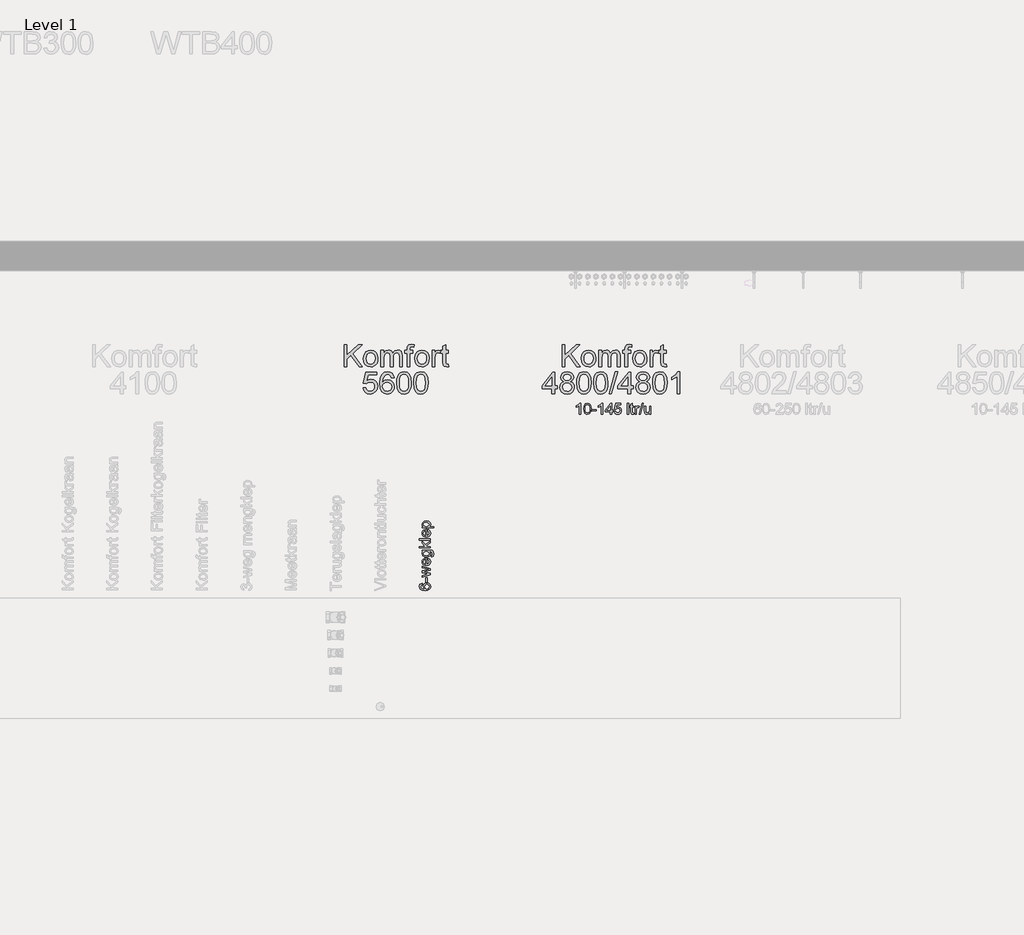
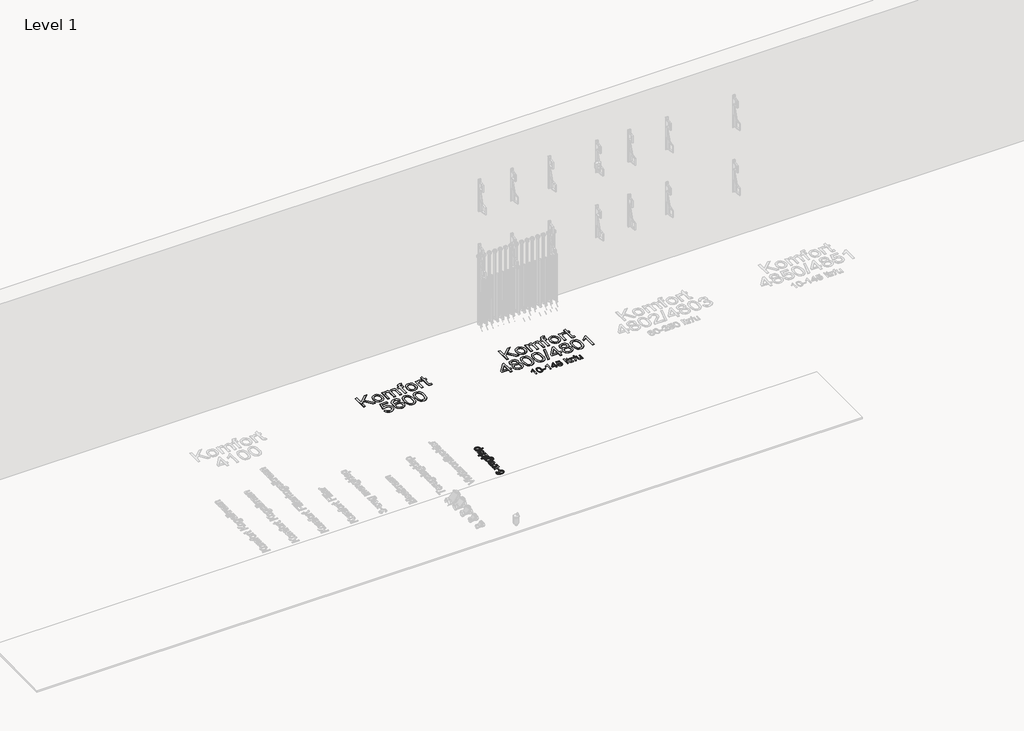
# One storey, part 22 of 34: 4 proxies.
"""IFC4 building model written with IfcOpenShell, lengths in millimetres."""

from ifc_helpers import new_model, si_unit, origin, origin_with_axes, place, context, project, spatial, polyline, outline, extrude, element, save

model = new_model("IFC4")

# Units and contexts
model_context = context("Model", 3, world=origin())
ifc_project = project(units=[si_unit("LENGTHUNIT", "METRE", prefix="MILLI")], contexts=[model_context])

# Site, building, storey
site = spatial("IfcSite", under=ifc_project)
building = spatial("IfcBuilding", under=site)
storey = spatial("IfcBuildingStorey", under=building, Name="Level 1", Elevation=0.0)

# Proxies
placement = place(None, origin())
element("IfcBuildingElementProxy", 1, Name="DN", ObjectType="DN", at=placement, inside=storey, context=model_context, shape_type="SweptSolid", body=[
    extrude(outline(polyline([(-10502.5642174, 6628.0579707), (-10511.7949866, 6628.0579707), (-10511.7949866, 6685.6060476), (-10520.538977, 6679.3770812), (-10530.2565251, 6674.7166245), (-10530.2565251, 6683.442586), (-10516.7258761, 6692.0784034), (-10508.5137366, 6701.9041245), (-10502.5642174, 6701.9041245), (-10502.5642174, 6628.0579707)])), origin_with_axes(), (0.0, 0.0, 1.0), 5.0),
    extrude(outline(polyline([(-10480.6411405, 6664.3860957), (-10477.9277991, 6685.6330909), (-10469.8689049, 6697.8836918), (-10456.4103712, 6701.9041245), (-10445.6291212, 6699.5243168), (-10438.1832078, 6692.6643409), (-10433.8562847, 6681.7388601), (-10432.179602, 6664.3860957), (-10434.8659001, 6643.2292447), (-10442.8977511, 6630.9516005), (-10456.4103712, 6626.9041245), (-10466.0017174, 6628.661937), (-10473.2853712, 6633.9353745), (-10478.8021982, 6646.4248577), (-10480.6411405, 6664.3860957)]), holes=[polyline([(-10471.4103712, 6664.4041245), (-10470.3286405, 6649.8841425), (-10467.0834482, 6641.4804466), (-10456.4103712, 6636.1348937), (-10445.7372943, 6641.4984755), (-10442.492102, 6649.9066786), (-10441.4103712, 6664.4041245), (-10445.5930636, 6687.0663841), (-10456.5185443, 6692.6733553), (-10466.9392174, 6687.7334514), (-10470.2925828, 6678.7370572), (-10471.4103712, 6664.4041245)])]), origin_with_axes(), (0.0, 0.0, 1.0), 5.0),
    extrude(outline(polyline([(-10426.4103712, 6649.9810476), (-10426.4103712, 6659.2118168), (-10397.5642174, 6659.2118168), (-10397.5642174, 6649.9810476), (-10426.4103712, 6649.9810476)])), origin_with_axes(), (0.0, 0.0, 1.0), 5.0),
    extrude(outline(polyline([(-10354.8719097, 6628.0579707), (-10364.1026789, 6628.0579707), (-10364.1026789, 6685.6060476), (-10372.8466693, 6679.3770812), (-10382.5642174, 6674.7166245), (-10382.5642174, 6683.442586), (-10369.0335684, 6692.0784034), (-10360.8214289, 6701.9041245), (-10354.8719097, 6701.9041245), (-10354.8719097, 6628.0579707)])), origin_with_axes(), (0.0, 0.0, 1.0), 5.0),
    extrude(outline(polyline([(-10302.9488328, 6628.0579707), (-10302.9488328, 6645.365663), (-10336.4103712, 6645.365663), (-10336.4103712, 6654.5964322), (-10300.6411405, 6700.7502784), (-10293.7180636, 6700.7502784), (-10293.7180636, 6654.5964322), (-10284.4872943, 6654.5964322), (-10284.4872943, 6645.365663), (-10293.7180636, 6645.365663), (-10293.7180636, 6628.0579707), (-10302.9488328, 6628.0579707)]), holes=[polyline([(-10302.9488328, 6654.5964322), (-10302.9488328, 6683.1180668), (-10325.0521982, 6654.5964322), (-10302.9488328, 6654.5964322)])]), origin_with_axes(), (0.0, 0.0, 1.0), 5.0),
    extrude(outline(polyline([(-10276.4103712, 6647.6733553), (-10267.179602, 6648.8272014), (-10262.5281597, 6639.3169851), (-10252.882727, 6636.1348937), (-10241.3082078, 6640.5609755), (-10237.179602, 6652.3067687), (-10241.0467895, 6663.2683072), (-10252.7384962, 6667.2887399), (-10260.8424626, 6665.6841726), (-10266.0257559, 6661.5195091), (-10275.2565251, 6662.6733553), (-10267.179602, 6700.7502784), (-10231.4103712, 6700.7502784), (-10231.4103712, 6691.5195091), (-10259.7156597, 6691.5195091), (-10263.663977, 6671.1829707), (-10250.1603712, 6676.5195091), (-10241.535822, 6674.8653625), (-10234.3761164, 6669.9029226), (-10229.5556537, 6662.3398216), (-10227.9488328, 6652.8836918), (-10233.7360924, 6635.756288), (-10242.0473905, 6629.1171654), (-10252.9187847, 6626.9041245), (-10261.9850407, 6628.3261498), (-10269.2078472, 6632.5922255), (-10274.1590191, 6639.2065584), (-10276.4103712, 6647.6733553)])), origin_with_axes(), (0.0, 0.0, 1.0), 5.0),
    extrude(outline(polyline([(-10188.7180636, 6628.0579707), (-10188.7180636, 6701.9041245), (-10179.4872943, 6701.9041245), (-10179.4872943, 6628.0579707), (-10188.7180636, 6628.0579707)])), origin_with_axes(), (0.0, 0.0, 1.0), 5.0),
    extrude(outline(polyline([(-10146.0257559, 6635.756288), (-10144.8719097, 6627.787538), (-10151.7769578, 6626.9041245), (-10159.5113328, 6628.4365764), (-10163.3695059, 6632.4570091), (-10164.4872943, 6642.9317687), (-10164.4872943, 6673.0579707), (-10171.4103712, 6673.0579707), (-10171.4103712, 6682.2887399), (-10164.4872943, 6682.2887399), (-10164.4872943, 6695.4678264), (-10155.2565251, 6700.8945091), (-10155.2565251, 6682.2887399), (-10146.0257559, 6682.2887399), (-10146.0257559, 6673.0579707), (-10155.2565251, 6673.0579707), (-10155.2565251, 6643.2022014), (-10154.7697462, 6638.442586), (-10153.1922222, 6636.7568889), (-10150.0461886, 6636.1348937), (-10146.0257559, 6635.756288)])), origin_with_axes(), (0.0, 0.0, 1.0), 5.0),
    extrude(outline(polyline([(-10136.7949866, 6628.0579707), (-10136.7949866, 6682.2887399), (-10128.7180636, 6682.2887399), (-10128.7180636, 6674.2659034), (-10122.9848905, 6681.6577303), (-10117.2156597, 6683.442586), (-10107.9488328, 6680.5940284), (-10111.0317655, 6672.318788), (-10117.5221501, 6674.2118168), (-10122.7415011, 6672.3909034), (-10126.0678232, 6667.3428264), (-10127.5642174, 6656.5615764), (-10127.5642174, 6628.0579707), (-10136.7949866, 6628.0579707)])), origin_with_axes(), (0.0, 0.0, 1.0), 5.0),
    extrude(outline(polyline([(-10109.1026789, 6628.0579707), (-10088.3334482, 6701.9041245), (-10080.0041212, 6701.9041245), (-10100.773352, 6628.0579707), (-10109.1026789, 6628.0579707)])), origin_with_axes(), (0.0, 0.0, 1.0), 5.0),
    extrude(outline(polyline([(-10038.7180636, 6628.0579707), (-10038.7180636, 6637.3788841), (-10045.9476309, 6629.5228144), (-10055.3767174, 6626.9041245), (-10064.0576068, 6628.7430668), (-10070.0431837, 6633.3584514), (-10072.7925828, 6640.1553264), (-10073.3334482, 6648.7370572), (-10073.3334482, 6682.2887399), (-10064.1026789, 6682.2887399), (-10064.1026789, 6653.0820091), (-10063.5437847, 6643.6709514), (-10059.8929434, 6638.1451101), (-10053.0149386, 6636.1348937), (-10045.3076068, 6638.1901822), (-10040.2144578, 6643.7881389), (-10038.7180636, 6654.0735957), (-10038.7180636, 6682.2887399), (-10029.4872943, 6682.2887399), (-10029.4872943, 6628.0579707), (-10038.7180636, 6628.0579707)])), origin_with_axes(), (0.0, 0.0, 1.0), 5.0),
])
element("IfcBuildingElementProxy", 2, Name="DN", ObjectType="DN", at=placement, inside=storey, context=model_context, shape_type="SweptSolid", body=[
    extrude(outline(polyline([(-11566.7545134, 5492.7170532), (-11565.5772911, 5483.2992741), (-11573.4315717, 5479.7308188), (-11577.3495149, 5470.2946456), (-11575.0686465, 5461.7965715), (-11566.5061931, 5455.3678336), (-11549.7215771, 5452.6914921), (-11557.2355668, 5460.9964282), (-11559.6911791, 5471.287927), (-11558.0127175, 5479.9883362), (-11552.9773327, 5487.2907938), (-11545.2840005, 5492.2434051), (-11535.6316966, 5493.8942756), (-11522.6362652, 5490.7856727), (-11513.4392153, 5482.2324163), (-11510.247839, 5469.8899754), (-11512.3631605, 5459.2053027), (-11518.7091249, 5450.6957323), (-11529.9111316, 5445.1292179), (-11546.5945801, 5443.273713), (-11565.3519633, 5445.3338522), (-11578.1772494, 5451.5142697), (-11584.6197828, 5459.952563), (-11586.767294, 5470.8832568), (-11581.4513991, 5485.7640835), (-11566.7545134, 5492.7170532)]), holes=[polyline([(-11535.7788494, 5452.6914921), (-11527.6210662, 5454.8711929), (-11521.6981661, 5460.6653344), (-11519.6656181, 5469.1542114), (-11523.8778669, 5480.2550506), (-11535.318997, 5484.4764965), (-11546.2726834, 5480.3102329), (-11550.2734001, 5468.7679353), (-11546.2726834, 5457.3727905), (-11535.7788494, 5452.6914921)])]), origin_with_axes(), (0.0, 0.0, 1.0), 5.0),
    extrude(outline(polyline([(-11533.7922867, 5499.7803875), (-11543.2100657, 5499.7803875), (-11543.2100657, 5529.2109471), (-11533.7922867, 5529.2109471), (-11533.7922867, 5499.7803875)])), origin_with_axes(), (0.0, 0.0, 1.0), 5.0),
    extrude(outline(polyline([(-11511.4250614, 5548.9846044), (-11566.7545134, 5532.1540031), (-11566.7545134, 5541.9396641), (-11534.4728684, 5551.4862019), (-11522.9397678, 5554.3372874), (-11534.0498041, 5556.6733381), (-11566.7545134, 5564.2701013), (-11566.7545134, 5575.4905021), (-11534.1417746, 5583.0504771), (-11524.080202, 5585.1290104), (-11534.6935976, 5588.1088545), (-11566.7545134, 5597.6737864), (-11566.7545134, 5607.4962357), (-11511.4250614, 5590.5368757), (-11511.4250614, 5579.150928), (-11543.8722533, 5571.9220468), (-11553.9890082, 5569.8251194), (-11511.4250614, 5560.4993108), (-11511.4250614, 5548.9846044)])), origin_with_axes(), (0.0, 0.0, 1.0), 5.0),
    extrude(outline(polyline([(-11527.9061748, 5652.7089329), (-11526.7289524, 5661.942771), (-11514.5704524, 5653.3067411), (-11510.247839, 5637.2211009), (-11512.1125408, 5626.1708455), (-11517.7066464, 5617.6681729), (-11526.6668723, 5612.2465119), (-11538.6299349, 5610.4392916), (-11550.9953685, 5612.264906), (-11560.2430021, 5617.7417493), (-11566.0095524, 5626.1294587), (-11567.9317358, 5636.687672), (-11566.0141509, 5646.9170907), (-11560.2613962, 5655.0909688), (-11551.0321567, 5660.4505496), (-11538.6851172, 5662.2370766), (-11536.1467314, 5662.1818943), (-11536.1467314, 5619.8570707), (-11523.9146551, 5625.2741331), (-11519.6656181, 5637.4050419), (-11521.6337867, 5646.63888), (-11527.9061748, 5652.7089329)]), holes=[polyline([(-11545.5645105, 5619.8570707), (-11545.5645105, 5652.8192975), (-11554.0993728, 5649.048507), (-11558.5139567, 5636.6508838), (-11554.9914866, 5625.0534039), (-11545.5645105, 5619.8570707)])]), origin_with_axes(), (0.0, 0.0, 1.0), 5.0),
    extrude(outline(polyline([(-11506.7161718, 5669.3004109), (-11505.5389494, 5678.71819), (-11500.5725425, 5681.7716105), (-11498.4756151, 5690.9134781), (-11500.848454, 5700.5519864), (-11507.5071181, 5705.1505113), (-11518.4883957, 5705.7943048), (-11513.1908949, 5699.1632318), (-11511.4250614, 5691.079025), (-11513.480602, 5681.3692396), (-11519.647224, 5674.1288621), (-11528.687924, 5669.6246069), (-11539.3656989, 5668.1231885), (-11553.9614171, 5670.8179241), (-11564.2897041, 5678.6170224), (-11567.9317358, 5690.6191725), (-11565.8715967, 5699.0206776), (-11559.6911791, 5705.7943048), (-11566.7545134, 5705.7943048), (-11566.7545134, 5715.2120839), (-11518.9850364, 5715.2120839), (-11500.6921042, 5712.6369099), (-11492.184833, 5704.4791267), (-11489.0578361, 5690.7295371), (-11493.463223, 5675.0669612), (-11498.9791536, 5670.6408809), (-11506.7161718, 5669.3004109)]), holes=[polyline([(-11540.0094924, 5677.5409676), (-11525.4321683, 5681.5600784), (-11520.8428404, 5691.6492421), (-11525.4045772, 5701.7200117), (-11539.7335809, 5705.7943048), (-11553.7774761, 5701.6004501), (-11558.5139567, 5691.5020893), (-11553.8510525, 5681.6152607), (-11540.0094924, 5677.5409676)])]), origin_with_axes(), (0.0, 0.0, 1.0), 5.0),
    extrude(outline(polyline([(-11511.4250614, 5729.3387525), (-11586.767294, 5729.3387525), (-11586.767294, 5738.7565316), (-11546.2818804, 5738.7565316), (-11566.7545134, 5759.8729581), (-11566.7545134, 5772.8959807), (-11546.024363, 5751.5220368), (-11511.4250614, 5774.0732031), (-11511.4250614, 5763.0735314), (-11539.4760635, 5744.7714022), (-11533.6451339, 5738.7565316), (-11511.4250614, 5738.7565316), (-11511.4250614, 5729.3387525)])), origin_with_axes(), (0.0, 0.0, 1.0), 5.0),
    extrude(outline(polyline([(-11511.4250614, 5782.3137598), (-11586.767294, 5782.3137598), (-11586.767294, 5791.7315389), (-11511.4250614, 5791.7315389), (-11511.4250614, 5782.3137598)])), origin_with_axes(), (0.0, 0.0, 1.0), 5.0),
    extrude(outline(polyline([(-11527.9061748, 5844.5961816), (-11526.7289524, 5853.8300197), (-11514.5704524, 5845.1939898), (-11510.247839, 5829.1083496), (-11512.1125408, 5818.0580942), (-11517.7066464, 5809.5554215), (-11526.6668723, 5804.1337606), (-11538.6299349, 5802.3265403), (-11550.9953685, 5804.1521547), (-11560.2430021, 5809.6289979), (-11566.0095524, 5818.0167074), (-11567.9317358, 5828.5749207), (-11566.0141509, 5838.8043394), (-11560.2613962, 5846.9782175), (-11551.0321567, 5852.3377983), (-11538.6851172, 5854.1243253), (-11536.1467314, 5854.069143), (-11536.1467314, 5811.7443194), (-11523.9146551, 5817.1613818), (-11519.6656181, 5829.2922906), (-11521.6337867, 5838.5261287), (-11527.9061748, 5844.5961816)]), holes=[polyline([(-11545.5645105, 5811.7443194), (-11545.5645105, 5844.7065462), (-11554.0993728, 5840.9357557), (-11558.5139567, 5828.5381325), (-11554.9914866, 5816.9406526), (-11545.5645105, 5811.7443194)])]), origin_with_axes(), (0.0, 0.0, 1.0), 5.0),
    extrude(outline(polyline([(-11490.2350584, 5863.5421043), (-11566.7545134, 5863.5421043), (-11566.7545134, 5872.9598834), (-11557.5206754, 5872.9598834), (-11565.3289707, 5879.4713947), (-11567.9317358, 5888.2637744), (-11564.2897041, 5900.2015451), (-11554.0257964, 5908.0006434), (-11539.5128517, 5910.6309997), (-11524.2549459, 5907.6603526), (-11513.8622796, 5899.0335198), (-11510.247839, 5887.1233402), (-11512.6666631, 5878.9287688), (-11518.7827013, 5872.9598834), (-11490.2350584, 5872.9598834), (-11490.2350584, 5863.5421043)]), holes=[polyline([(-11538.648329, 5872.9598834), (-11524.3009312, 5877.0341765), (-11519.6656181, 5886.9210051), (-11524.4664781, 5897.0101688), (-11539.3473048, 5901.2132206), (-11553.7314908, 5897.1113364), (-11558.5139567, 5887.3072812), (-11553.4279882, 5877.310088), (-11538.648329, 5872.9598834)])]), origin_with_axes(), (0.0, 0.0, 1.0), 5.0),
])
element("IfcBuildingElementProxy", 3, Name="type", ObjectType="type", at=placement, inside=storey, context=model_context, shape_type="SweptSolid", body=[
    extrude(outline(polyline([(-10626.6026789, 6948.0579707), (-10626.6026789, 7095.7502784), (-10608.1411405, 7095.7502784), (-10608.1411405, 7023.4546053), (-10532.4199866, 7095.7502784), (-10506.6026789, 7095.7502784), (-10570.1723905, 7035.0291245), (-10504.2949866, 6948.0579707), (-10526.867102, 6948.0579707), (-10583.2613328, 7022.553163), (-10608.1411405, 6998.8272014), (-10608.1411405, 6948.0579707), (-10626.6026789, 6948.0579707)])), origin_with_axes(), (0.0, 0.0, 1.0), 5.0),
    extrude(outline(polyline([(-10497.3719097, 7002.2887399), (-10493.3785203, 7028.4395812), (-10481.398352, 7046.8199899), (-10466.5966693, 7055.8253985), (-10448.8743136, 7058.8272014), (-10429.4797823, 7055.1718529), (-10413.9884962, 7044.2058072), (-10403.8337487, 7026.794449), (-10400.4488328, 7003.803163), (-10401.945227, 6985.1523216), (-10406.4344097, 6970.9546053), (-10413.7856717, 6960.3220933), (-10423.8683039, 6952.3668649), (-10435.843965, 6947.404425), (-10448.8743136, 6945.7502784), (-10468.5032198, 6949.3921053), (-10483.976477, 6960.317586), (-10494.0230515, 6978.0940284), (-10497.3719097, 7002.2887399)]), holes=[polyline([(-10478.9103712, 7002.3247976), (-10476.773953, 6985.6165644), (-10470.3646982, 6973.7130187), (-10460.7192655, 6966.5871173), (-10448.8743136, 6964.2118168), (-10437.0834482, 6966.6006389), (-10427.4560443, 6973.7671053), (-10421.0467895, 6985.8284034), (-10418.9103712, 7002.9017207), (-10421.0603112, 7019.123175), (-10427.5101309, 7030.864461), (-10437.1510563, 7037.9903625), (-10448.8743136, 7040.365663), (-10460.7192655, 7037.9993769), (-10470.3646982, 7030.9005187), (-10476.773953, 7019.0240163), (-10478.9103712, 7002.3247976)])]), origin_with_axes(), (0.0, 0.0, 1.0), 5.0),
    extrude(outline(polyline([(-10379.679602, 6948.0579707), (-10379.679602, 7056.5195091), (-10361.2180636, 7056.5195091), (-10361.2180636, 7038.6709514), (-10348.5257559, 7053.2923457), (-10330.460852, 7058.8272014), (-10320.1934241, 7057.4164442), (-10311.9632559, 7053.1841726), (-10301.7949866, 7037.3728745), (-10287.3899386, 7053.4636197), (-10269.1988328, 7058.8272014), (-10255.3211285, 7056.5961317), (-10245.0582078, 7049.9029226), (-10238.7165612, 7038.5672856), (-10236.6026789, 7022.4089322), (-10236.6026789, 6948.0579707), (-10255.0642174, 6948.0579707), (-10255.0642174, 7014.4762399), (-10256.7769578, 7029.8909034), (-10262.9788809, 7037.4810476), (-10273.5257559, 7040.365663), (-10283.5272583, 7038.5177062), (-10291.6808039, 7032.973836), (-10297.1029794, 7023.3554466), (-10298.9103712, 7009.2839322), (-10298.9103712, 6948.0579707), (-10317.3719097, 6948.0579707), (-10317.3719097, 7016.5315284), (-10321.6447462, 7034.4161437), (-10327.2832679, 7038.8782832), (-10335.6531597, 7040.365663), (-10349.3190251, 7036.3993168), (-10358.4055636, 7024.7887399), (-10361.2180636, 7002.7574899), (-10361.2180636, 6948.0579707), (-10379.679602, 6948.0579707)])), origin_with_axes(), (0.0, 0.0, 1.0), 5.0),
    extrude(outline(polyline([(-10204.2949866, 6948.0579707), (-10204.2949866, 7038.0579707), (-10220.4488328, 7038.0579707), (-10220.4488328, 7056.5195091), (-10204.2949866, 7056.5195091), (-10204.2949866, 7067.4449899), (-10202.3478712, 7082.8416245), (-10192.9007559, 7093.8392207), (-10174.2949866, 7098.0579707), (-10157.4560443, 7096.0387399), (-10160.1603712, 7078.7310476), (-10170.7973905, 7079.5964322), (-10182.4259962, 7076.5315284), (-10185.8334482, 7065.1012399), (-10185.8334482, 7056.5195091), (-10165.0642174, 7056.5195091), (-10165.0642174, 7038.0579707), (-10185.8334482, 7038.0579707), (-10185.8334482, 6948.0579707), (-10204.2949866, 6948.0579707)])), origin_with_axes(), (0.0, 0.0, 1.0), 5.0),
    extrude(outline(polyline([(-10153.5257559, 7002.2887399), (-10149.5323664, 7028.4395812), (-10137.5521982, 7046.8199899), (-10122.7505155, 7055.8253985), (-10105.0281597, 7058.8272014), (-10085.6336285, 7055.1718529), (-10070.1423424, 7044.2058072), (-10059.9875948, 7026.794449), (-10056.6026789, 7003.803163), (-10058.0990732, 6985.1523216), (-10062.5882559, 6970.9546053), (-10069.9395179, 6960.3220933), (-10080.0221501, 6952.3668649), (-10091.9978112, 6947.404425), (-10105.0281597, 6945.7502784), (-10124.657066, 6949.3921053), (-10140.1303232, 6960.317586), (-10150.1768977, 6978.0940284), (-10153.5257559, 7002.2887399)]), holes=[polyline([(-10135.0642174, 7002.3247976), (-10132.9277991, 6985.6165644), (-10126.5185443, 6973.7130187), (-10116.8731116, 6966.5871173), (-10105.0281597, 6964.2118168), (-10093.2372943, 6966.6006389), (-10083.6098905, 6973.7671053), (-10077.2006357, 6985.8284034), (-10075.0642174, 7002.9017207), (-10077.2141573, 7019.123175), (-10083.663977, 7030.864461), (-10093.3049025, 7037.9903625), (-10105.0281597, 7040.365663), (-10116.8731116, 7037.9993769), (-10126.5185443, 7030.9005187), (-10132.9277991, 7019.0240163), (-10135.0642174, 7002.3247976)])]), origin_with_axes(), (0.0, 0.0, 1.0), 5.0),
    extrude(outline(polyline([(-10035.8334482, 6948.0579707), (-10035.8334482, 7056.5195091), (-10019.679602, 7056.5195091), (-10019.679602, 7040.473836), (-10008.2132559, 7055.2574899), (-9996.6747943, 7058.8272014), (-9978.1411405, 7053.130086), (-9984.3070059, 7036.5796053), (-9997.2877751, 7040.365663), (-10007.726477, 7036.723836), (-10014.3791212, 7026.6276822), (-10017.3719097, 7005.0651822), (-10017.3719097, 6948.0579707), (-10035.8334482, 6948.0579707)])), origin_with_axes(), (0.0, 0.0, 1.0), 5.0),
    extrude(outline(polyline([(-9927.3719097, 6963.4546053), (-9925.0642174, 6947.5171053), (-9938.8743136, 6945.7502784), (-9954.3430636, 6948.8151822), (-9962.0594097, 6956.8560476), (-9964.2949866, 6977.8055668), (-9964.2949866, 7038.0579707), (-9978.1411405, 7038.0579707), (-9978.1411405, 7056.5195091), (-9964.2949866, 7056.5195091), (-9964.2949866, 7082.8776822), (-9945.8334482, 7093.7310476), (-9945.8334482, 7056.5195091), (-9927.3719097, 7056.5195091), (-9927.3719097, 7038.0579707), (-9945.8334482, 7038.0579707), (-9945.8334482, 6978.3464322), (-9944.8598905, 6968.8272014), (-9941.7048424, 6965.4558072), (-9935.4127751, 6964.2118168), (-9927.3719097, 6963.4546053)])), origin_with_axes(), (0.0, 0.0, 1.0), 5.0),
    extrude(outline(polyline([(-10694.679602, 6765.7502784), (-10694.679602, 6800.365663), (-10761.6026789, 6800.365663), (-10761.6026789, 6818.8272014), (-10690.0642174, 6911.1348937), (-10676.2180636, 6911.1348937), (-10676.2180636, 6818.8272014), (-10657.7565251, 6818.8272014), (-10657.7565251, 6800.365663), (-10676.2180636, 6800.365663), (-10676.2180636, 6765.7502784), (-10694.679602, 6765.7502784)]), holes=[polyline([(-10694.679602, 6818.8272014), (-10694.679602, 6875.8704707), (-10738.8863328, 6818.8272014), (-10694.679602, 6818.8272014)])]), origin_with_axes(), (0.0, 0.0, 1.0), 5.0),
    extrude(outline(polyline([(-10614.7036405, 6847.0964322), (-10631.5245539, 6858.5627784), (-10636.9872943, 6876.411336), (-10634.0125347, 6890.8434274), (-10625.0882559, 6902.7695091), (-10611.2150587, 6910.7743168), (-10593.3935443, 6913.442586), (-10575.4638568, 6910.7112159), (-10561.4103712, 6902.5171053), (-10552.3238328, 6890.4017207), (-10549.2949866, 6875.9065284), (-10554.6856116, 6858.5086918), (-10571.0377751, 6847.0964322), (-10559.6750948, 6841.2415644), (-10551.4043616, 6832.6192687), (-10546.3607919, 6821.6442086), (-10544.679602, 6808.7310476), (-10548.0149386, 6791.0808072), (-10558.0209482, 6776.4954707), (-10573.4716693, 6766.7058072), (-10593.1411405, 6763.442586), (-10612.8106116, 6766.7193288), (-10628.2613328, 6776.5495572), (-10638.2673424, 6791.2746173), (-10641.6026789, 6809.2358553), (-10639.8538809, 6822.6493168), (-10634.6074866, 6833.6829707), (-10626.1339289, 6841.958211), (-10614.7036405, 6847.0964322)]), holes=[polyline([(-10618.5257559, 6875.8704707), (-10616.8896381, 6867.8115764), (-10611.9812847, 6861.3752784), (-10603.9449265, 6857.1565284), (-10592.9247943, 6855.7502784), (-10582.1615732, 6857.1475139), (-10574.2469097, 6861.3392207), (-10569.3791212, 6867.5591726), (-10567.7565251, 6875.0411437), (-10569.4332078, 6882.8070692), (-10574.4632559, 6889.2298457), (-10582.4860924, 6893.5432471), (-10593.1411405, 6894.9810476), (-10603.8637967, 6893.5747976), (-10611.8731116, 6889.3560476), (-10616.8625948, 6883.1721534), (-10618.5257559, 6875.8704707)]), polyline([(-10623.1411405, 6809.8848937), (-10620.0582078, 6795.9846534), (-10609.1507559, 6785.5820091), (-10592.9969097, 6781.9041245), (-10580.4308039, 6783.8377183), (-10571.0017174, 6789.6384995), (-10565.1062847, 6798.4230548), (-10563.1411405, 6809.3079707), (-10565.1693857, 6820.3776822), (-10571.2541212, 6829.3560476), (-10580.8995539, 6835.3055668), (-10593.6098905, 6837.2887399), (-10606.000215, 6835.3326101), (-10615.3346501, 6829.4642207), (-10621.1895179, 6820.6571293), (-10623.1411405, 6809.8848937)])]), origin_with_axes(), (0.0, 0.0, 1.0), 5.0),
    extrude(outline(polyline([(-10528.5257559, 6838.4065284), (-10527.1690852, 6862.0468529), (-10523.0990732, 6880.9005187), (-10516.3562847, 6895.2559875), (-10506.9812847, 6905.4017207), (-10494.906465, 6911.4323697), (-10480.0642174, 6913.442586), (-10458.5017174, 6908.6829707), (-10443.6098905, 6894.9630187), (-10434.9560443, 6873.1120572), (-10431.6026789, 6838.4065284), (-10432.945828, 6814.9014202), (-10436.9752751, 6796.0928264), (-10443.6774987, 6781.723836), (-10453.038977, 6771.537538), (-10465.14084, 6765.466324), (-10480.0642174, 6763.442586), (-10499.2469097, 6766.958211), (-10513.8142174, 6777.505086), (-10524.8478712, 6802.4840524), (-10528.5257559, 6838.4065284)]), holes=[polyline([(-10510.0642174, 6838.442586), (-10507.9007559, 6809.4026221), (-10501.4103712, 6792.5952303), (-10491.7469097, 6784.576901), (-10480.0642174, 6781.9041245), (-10468.3815251, 6784.5859154), (-10458.7180636, 6792.631288), (-10452.2276789, 6809.4476942), (-10450.0642174, 6838.442586), (-10452.1555636, 6866.8290043), (-10458.429602, 6883.7671053), (-10468.0750347, 6892.177562), (-10480.2805636, 6894.9810476), (-10491.8370539, 6892.5110957), (-10501.1219097, 6885.1012399), (-10507.8286405, 6867.1084514), (-10510.0642174, 6838.442586)])]), origin_with_axes(), (0.0, 0.0, 1.0), 5.0),
    extrude(outline(polyline([(-10415.4488328, 6838.4065284), (-10414.0921621, 6862.0468529), (-10410.0221501, 6880.9005187), (-10403.2793616, 6895.2559875), (-10393.9043616, 6905.4017207), (-10381.8295419, 6911.4323697), (-10366.9872943, 6913.442586), (-10345.4247943, 6908.6829707), (-10330.5329674, 6894.9630187), (-10321.8791212, 6873.1120572), (-10318.5257559, 6838.4065284), (-10319.8689049, 6814.9014202), (-10323.898352, 6796.0928264), (-10330.6005756, 6781.723836), (-10339.9620539, 6771.537538), (-10352.0639169, 6765.466324), (-10366.9872943, 6763.442586), (-10386.1699866, 6766.958211), (-10400.7372943, 6777.505086), (-10411.7709482, 6802.4840524), (-10415.4488328, 6838.4065284)]), holes=[polyline([(-10396.9872943, 6838.442586), (-10394.8238328, 6809.4026221), (-10388.3334482, 6792.5952303), (-10378.6699866, 6784.576901), (-10366.9872943, 6781.9041245), (-10355.304602, 6784.5859154), (-10345.6411405, 6792.631288), (-10339.1507559, 6809.4476942), (-10336.9872943, 6838.442586), (-10339.0786405, 6866.8290043), (-10345.3526789, 6883.7671053), (-10354.9981116, 6892.177562), (-10367.2036405, 6894.9810476), (-10378.7601309, 6892.5110957), (-10388.0449866, 6885.1012399), (-10394.7517174, 6867.1084514), (-10396.9872943, 6838.442586)])]), origin_with_axes(), (0.0, 0.0, 1.0), 5.0),
    extrude(outline(polyline([(-10311.6026789, 6765.7502784), (-10270.0642174, 6913.442586), (-10253.4055636, 6913.442586), (-10294.9440251, 6765.7502784), (-10311.6026789, 6765.7502784)])), origin_with_axes(), (0.0, 0.0, 1.0), 5.0),
    extrude(outline(polyline([(-10184.679602, 6765.7502784), (-10184.679602, 6800.365663), (-10251.6026789, 6800.365663), (-10251.6026789, 6818.8272014), (-10180.0642174, 6911.1348937), (-10166.2180636, 6911.1348937), (-10166.2180636, 6818.8272014), (-10147.7565251, 6818.8272014), (-10147.7565251, 6800.365663), (-10166.2180636, 6800.365663), (-10166.2180636, 6765.7502784), (-10184.679602, 6765.7502784)]), holes=[polyline([(-10184.679602, 6818.8272014), (-10184.679602, 6875.8704707), (-10228.8863328, 6818.8272014), (-10184.679602, 6818.8272014)])]), origin_with_axes(), (0.0, 0.0, 1.0), 5.0),
    extrude(outline(polyline([(-10104.7036405, 6847.0964322), (-10121.5245539, 6858.5627784), (-10126.9872943, 6876.411336), (-10124.0125347, 6890.8434274), (-10115.0882559, 6902.7695091), (-10101.2150587, 6910.7743168), (-10083.3935443, 6913.442586), (-10065.4638568, 6910.7112159), (-10051.4103712, 6902.5171053), (-10042.3238328, 6890.4017207), (-10039.2949866, 6875.9065284), (-10044.6856116, 6858.5086918), (-10061.0377751, 6847.0964322), (-10049.6750948, 6841.2415644), (-10041.4043616, 6832.6192687), (-10036.3607919, 6821.6442086), (-10034.679602, 6808.7310476), (-10038.0149386, 6791.0808072), (-10048.0209482, 6776.4954707), (-10063.4716693, 6766.7058072), (-10083.1411405, 6763.442586), (-10102.8106116, 6766.7193288), (-10118.2613328, 6776.5495572), (-10128.2673424, 6791.2746173), (-10131.6026789, 6809.2358553), (-10129.8538809, 6822.6493168), (-10124.6074866, 6833.6829707), (-10116.1339289, 6841.958211), (-10104.7036405, 6847.0964322)]), holes=[polyline([(-10108.5257559, 6875.8704707), (-10106.8896381, 6867.8115764), (-10101.9812847, 6861.3752784), (-10093.9449265, 6857.1565284), (-10082.9247943, 6855.7502784), (-10072.1615732, 6857.1475139), (-10064.2469097, 6861.3392207), (-10059.3791212, 6867.5591726), (-10057.7565251, 6875.0411437), (-10059.4332078, 6882.8070692), (-10064.4632559, 6889.2298457), (-10072.4860924, 6893.5432471), (-10083.1411405, 6894.9810476), (-10093.8637967, 6893.5747976), (-10101.8731116, 6889.3560476), (-10106.8625948, 6883.1721534), (-10108.5257559, 6875.8704707)]), polyline([(-10113.1411405, 6809.8848937), (-10110.0582078, 6795.9846534), (-10099.1507559, 6785.5820091), (-10082.9969097, 6781.9041245), (-10070.4308039, 6783.8377183), (-10061.0017174, 6789.6384995), (-10055.1062847, 6798.4230548), (-10053.1411405, 6809.3079707), (-10055.1693857, 6820.3776822), (-10061.2541212, 6829.3560476), (-10070.8995539, 6835.3055668), (-10083.6098905, 6837.2887399), (-10096.000215, 6835.3326101), (-10105.3346501, 6829.4642207), (-10111.1895179, 6820.6571293), (-10113.1411405, 6809.8848937)])]), origin_with_axes(), (0.0, 0.0, 1.0), 5.0),
    extrude(outline(polyline([(-10018.5257559, 6838.4065284), (-10017.1690852, 6862.0468529), (-10013.0990732, 6880.9005187), (-10006.3562847, 6895.2559875), (-9996.9812847, 6905.4017207), (-9984.906465, 6911.4323697), (-9970.0642174, 6913.442586), (-9948.5017174, 6908.6829707), (-9933.6098905, 6894.9630187), (-9924.9560443, 6873.1120572), (-9921.6026789, 6838.4065284), (-9922.945828, 6814.9014202), (-9926.9752751, 6796.0928264), (-9933.6774987, 6781.723836), (-9943.038977, 6771.537538), (-9955.14084, 6765.466324), (-9970.0642174, 6763.442586), (-9989.2469097, 6766.958211), (-10003.8142174, 6777.505086), (-10014.8478712, 6802.4840524), (-10018.5257559, 6838.4065284)]), holes=[polyline([(-10000.0642174, 6838.442586), (-9997.9007559, 6809.4026221), (-9991.4103712, 6792.5952303), (-9981.7469097, 6784.576901), (-9970.0642174, 6781.9041245), (-9958.3815251, 6784.5859154), (-9948.7180636, 6792.631288), (-9942.2276789, 6809.4476942), (-9940.0642174, 6838.442586), (-9942.1555636, 6866.8290043), (-9948.429602, 6883.7671053), (-9958.0750347, 6892.177562), (-9970.2805636, 6894.9810476), (-9981.8370539, 6892.5110957), (-9991.1219097, 6885.1012399), (-9997.8286405, 6867.1084514), (-10000.0642174, 6838.442586)])]), origin_with_axes(), (0.0, 0.0, 1.0), 5.0),
    extrude(outline(polyline([(-9836.2180636, 6765.7502784), (-9854.679602, 6765.7502784), (-9854.679602, 6880.8464322), (-9872.1675828, 6868.3884995), (-9891.6026789, 6859.067586), (-9891.6026789, 6876.5195091), (-9864.5413809, 6893.7911437), (-9848.117102, 6913.442586), (-9836.2180636, 6913.442586), (-9836.2180636, 6765.7502784)])), origin_with_axes(), (0.0, 0.0, 1.0), 5.0),
])
element("IfcBuildingElementProxy", 4, Name="type", ObjectType="type", at=placement, inside=storey, context=model_context, shape_type="SweptSolid", body=[
    extrude(outline(polyline([(-12090.3569881, 6948.0579707), (-12090.3569881, 7095.7502784), (-12071.8954496, 7095.7502784), (-12071.8954496, 7023.4546053), (-11996.1742958, 7095.7502784), (-11970.3569881, 7095.7502784), (-12033.9266996, 7035.0291245), (-11968.0492958, 6948.0579707), (-11990.6214112, 6948.0579707), (-12047.015642, 7022.553163), (-12071.8954496, 6998.8272014), (-12071.8954496, 6948.0579707), (-12090.3569881, 6948.0579707)])), origin_with_axes(), (0.0, 0.0, 1.0), 5.0),
    extrude(outline(polyline([(-11961.1262189, 7002.2887399), (-11957.1328295, 7028.4395812), (-11945.1526612, 7046.8199899), (-11930.3509785, 7055.8253985), (-11912.6286227, 7058.8272014), (-11893.2340915, 7055.1718529), (-11877.7428054, 7044.2058072), (-11867.5880578, 7026.794449), (-11864.203142, 7003.803163), (-11865.6995362, 6985.1523216), (-11870.1887189, 6970.9546053), (-11877.5399809, 6960.3220933), (-11887.6226131, 6952.3668649), (-11899.5982742, 6947.404425), (-11912.6286227, 6945.7502784), (-11932.257529, 6949.3921053), (-11947.7307862, 6960.317586), (-11957.7773607, 6978.0940284), (-11961.1262189, 7002.2887399)]), holes=[polyline([(-11942.6646804, 7002.3247976), (-11940.5282621, 6985.6165644), (-11934.1190073, 6973.7130187), (-11924.4735746, 6966.5871173), (-11912.6286227, 6964.2118168), (-11900.8377573, 6966.6006389), (-11891.2103535, 6973.7671053), (-11884.8010987, 6985.8284034), (-11882.6646804, 7002.9017207), (-11884.8146203, 7019.123175), (-11891.26444, 7030.864461), (-11900.9053655, 7037.9903625), (-11912.6286227, 7040.365663), (-11924.4735746, 7037.9993769), (-11934.1190073, 7030.9005187), (-11940.5282621, 7019.0240163), (-11942.6646804, 7002.3247976)])]), origin_with_axes(), (0.0, 0.0, 1.0), 5.0),
    extrude(outline(polyline([(-11843.4339112, 6948.0579707), (-11843.4339112, 7056.5195091), (-11824.9723727, 7056.5195091), (-11824.9723727, 7038.6709514), (-11812.280065, 7053.2923457), (-11794.2151612, 7058.8272014), (-11783.9477333, 7057.4164442), (-11775.717565, 7053.1841726), (-11765.5492958, 7037.3728745), (-11751.1442477, 7053.4636197), (-11732.953142, 7058.8272014), (-11719.0754376, 7056.5961317), (-11708.812517, 7049.9029226), (-11702.4708703, 7038.5672856), (-11700.3569881, 7022.4089322), (-11700.3569881, 6948.0579707), (-11718.8185266, 6948.0579707), (-11718.8185266, 7014.4762399), (-11720.531267, 7029.8909034), (-11726.73319, 7037.4810476), (-11737.280065, 7040.365663), (-11747.2815674, 7038.5177062), (-11755.4351131, 7032.973836), (-11760.8572886, 7023.3554466), (-11762.6646804, 7009.2839322), (-11762.6646804, 6948.0579707), (-11781.1262189, 6948.0579707), (-11781.1262189, 7016.5315284), (-11785.3990554, 7034.4161437), (-11791.0375771, 7038.8782832), (-11799.4074689, 7040.365663), (-11813.0733343, 7036.3993168), (-11822.1598727, 7024.7887399), (-11824.9723727, 7002.7574899), (-11824.9723727, 6948.0579707), (-11843.4339112, 6948.0579707)])), origin_with_axes(), (0.0, 0.0, 1.0), 5.0),
    extrude(outline(polyline([(-11668.0492958, 6948.0579707), (-11668.0492958, 7038.0579707), (-11684.203142, 7038.0579707), (-11684.203142, 7056.5195091), (-11668.0492958, 7056.5195091), (-11668.0492958, 7067.4449899), (-11666.1021804, 7082.8416245), (-11656.655065, 7093.8392207), (-11638.0492958, 7098.0579707), (-11621.2103535, 7096.0387399), (-11623.9146804, 7078.7310476), (-11634.5516996, 7079.5964322), (-11646.1803054, 7076.5315284), (-11649.5877573, 7065.1012399), (-11649.5877573, 7056.5195091), (-11628.8185266, 7056.5195091), (-11628.8185266, 7038.0579707), (-11649.5877573, 7038.0579707), (-11649.5877573, 6948.0579707), (-11668.0492958, 6948.0579707)])), origin_with_axes(), (0.0, 0.0, 1.0), 5.0),
    extrude(outline(polyline([(-11617.280065, 7002.2887399), (-11613.2866756, 7028.4395812), (-11601.3065073, 7046.8199899), (-11586.5048246, 7055.8253985), (-11568.7824689, 7058.8272014), (-11549.3879376, 7055.1718529), (-11533.8966516, 7044.2058072), (-11523.741904, 7026.794449), (-11520.3569881, 7003.803163), (-11521.8533823, 6985.1523216), (-11526.342565, 6970.9546053), (-11533.6938271, 6960.3220933), (-11543.7764593, 6952.3668649), (-11555.7521203, 6947.404425), (-11568.7824689, 6945.7502784), (-11588.4113751, 6949.3921053), (-11603.8846323, 6960.317586), (-11613.9312069, 6978.0940284), (-11617.280065, 7002.2887399)]), holes=[polyline([(-11598.8185266, 7002.3247976), (-11596.6821083, 6985.6165644), (-11590.2728535, 6973.7130187), (-11580.6274208, 6966.5871173), (-11568.7824689, 6964.2118168), (-11556.9916035, 6966.6006389), (-11547.3641996, 6973.7671053), (-11540.9549448, 6985.8284034), (-11538.8185266, 7002.9017207), (-11540.9684665, 7019.123175), (-11547.4182862, 7030.864461), (-11557.0592117, 7037.9903625), (-11568.7824689, 7040.365663), (-11580.6274208, 7037.9993769), (-11590.2728535, 7030.9005187), (-11596.6821083, 7019.0240163), (-11598.8185266, 7002.3247976)])]), origin_with_axes(), (0.0, 0.0, 1.0), 5.0),
    extrude(outline(polyline([(-11499.5877573, 6948.0579707), (-11499.5877573, 7056.5195091), (-11483.4339112, 7056.5195091), (-11483.4339112, 7040.473836), (-11471.967565, 7055.2574899), (-11460.4291035, 7058.8272014), (-11441.8954496, 7053.130086), (-11448.061315, 7036.5796053), (-11461.0420843, 7040.365663), (-11471.4807862, 7036.723836), (-11478.1334304, 7026.6276822), (-11481.1262189, 7005.0651822), (-11481.1262189, 6948.0579707), (-11499.5877573, 6948.0579707)])), origin_with_axes(), (0.0, 0.0, 1.0), 5.0),
    extrude(outline(polyline([(-11391.1262189, 6963.4546053), (-11388.8185266, 6947.5171053), (-11402.6286227, 6945.7502784), (-11418.0973727, 6948.8151822), (-11425.8137189, 6956.8560476), (-11428.0492958, 6977.8055668), (-11428.0492958, 7038.0579707), (-11441.8954496, 7038.0579707), (-11441.8954496, 7056.5195091), (-11428.0492958, 7056.5195091), (-11428.0492958, 7082.8776822), (-11409.5877573, 7093.7310476), (-11409.5877573, 7056.5195091), (-11391.1262189, 7056.5195091), (-11391.1262189, 7038.0579707), (-11409.5877573, 7038.0579707), (-11409.5877573, 6978.3464322), (-11408.6141996, 6968.8272014), (-11405.4591516, 6965.4558072), (-11399.1670843, 6964.2118168), (-11391.1262189, 6963.4546053)])), origin_with_axes(), (0.0, 0.0, 1.0), 5.0),
    extrude(outline(polyline([(-11963.4339112, 6804.9810476), (-11944.9723727, 6807.2887399), (-11941.5829496, 6796.2055067), (-11935.6694881, 6788.2683072), (-11927.2590314, 6783.4951702), (-11916.3786227, 6781.9041245), (-11903.1454496, 6784.1171654), (-11893.2295843, 6790.756288), (-11887.0366756, 6801.0552663), (-11884.9723727, 6814.2478745), (-11886.9059665, 6826.6697495), (-11892.7067477, 6836.1709514), (-11902.4197886, 6842.2016005), (-11916.0901612, 6844.2118168), (-11932.2980939, 6841.0026822), (-11942.6646804, 6832.6733553), (-11961.1262189, 6834.9810476), (-11944.9723727, 6911.1348937), (-11873.4339112, 6911.1348937), (-11873.4339112, 6892.6733553), (-11930.0444881, 6892.6733553), (-11937.9411227, 6852.0002784), (-11924.7530218, 6860.005086), (-11910.9339112, 6862.6733553), (-11893.6848126, 6859.365062), (-11879.3654016, 6849.4401822), (-11869.7244761, 6834.3139803), (-11866.5108343, 6815.4017207), (-11869.4044641, 6796.9401822), (-11878.0853535, 6781.146913), (-11894.7079496, 6767.8686678), (-11916.4507381, 6763.442586), (-11934.5832501, 6766.2866365), (-11949.0288631, 6774.818788), (-11958.9312069, 6788.0474538), (-11963.4339112, 6804.9810476)])), origin_with_axes(), (0.0, 0.0, 1.0), 5.0),
    extrude(outline(polyline([(-11755.7416035, 6874.2118168), (-11774.203142, 6871.9041245), (-11781.1983343, 6887.3007591), (-11789.5727333, 6893.0609755), (-11799.6959304, 6894.9810476), (-11816.3545843, 6890.5098937), (-11828.9567477, 6873.725038), (-11832.7833703, 6859.9735356), (-11834.203142, 6840.8223937), (-11817.9230939, 6855.551961), (-11797.748815, 6860.365663), (-11780.6935266, 6857.0753985), (-11766.3786227, 6847.2046053), (-11756.6700891, 6832.1234755), (-11753.4339112, 6813.2022014), (-11754.9573487, 6799.98255), (-11759.5276612, 6787.7274418), (-11766.7662429, 6777.333812), (-11776.2944881, 6769.6985957), (-11787.6797045, 6765.0065885), (-11800.4891996, 6763.442586), (-11821.4342117, 6767.5892207), (-11838.1154016, 6780.0291245), (-11849.0273607, 6801.9882591), (-11852.6646804, 6834.692586), (-11848.6262189, 6871.4624178), (-11836.5108343, 6896.6036437), (-11819.9693679, 6909.2328505), (-11798.5420843, 6913.442586), (-11782.343166, 6910.8374178), (-11769.3714112, 6903.021913), (-11760.2848727, 6890.6090524), (-11755.7416035, 6874.2118168)]), holes=[polyline([(-11834.203142, 6813.490663), (-11829.9303054, 6797.4990764), (-11818.5721323, 6785.8884995), (-11801.9315073, 6781.9041245), (-11789.7485146, 6783.9684274), (-11780.17069, 6790.161336), (-11773.9642597, 6799.896913), (-11771.8954496, 6812.5892207), (-11773.9372165, 6824.7722135), (-11780.062517, 6834.0615764), (-11789.8026011, 6839.9434875), (-11802.6887189, 6841.9041245), (-11814.8536828, 6839.9434875), (-11825.0264593, 6834.0615764), (-11831.9089713, 6824.997574), (-11834.203142, 6813.490663)])]), origin_with_axes(), (0.0, 0.0, 1.0), 5.0),
    extrude(outline(polyline([(-11737.280065, 6838.4065284), (-11735.9233944, 6862.0468529), (-11731.8533823, 6880.9005187), (-11725.1105939, 6895.2559875), (-11715.7355939, 6905.4017207), (-11703.6607742, 6911.4323697), (-11688.8185266, 6913.442586), (-11667.2560266, 6908.6829707), (-11652.3641996, 6894.9630187), (-11643.7103535, 6873.1120572), (-11640.3569881, 6838.4065284), (-11641.7001371, 6814.9014202), (-11645.7295843, 6796.0928264), (-11652.4318078, 6781.723836), (-11661.7932862, 6771.537538), (-11673.8951492, 6765.466324), (-11688.8185266, 6763.442586), (-11708.0012189, 6766.958211), (-11722.5685266, 6777.505086), (-11733.6021804, 6802.4840524), (-11737.280065, 6838.4065284)]), holes=[polyline([(-11718.8185266, 6838.442586), (-11716.655065, 6809.4026221), (-11710.1646804, 6792.5952303), (-11700.5012189, 6784.576901), (-11688.8185266, 6781.9041245), (-11677.1358343, 6784.5859154), (-11667.4723727, 6792.631288), (-11660.9819881, 6809.4476942), (-11658.8185266, 6838.442586), (-11660.9098727, 6866.8290043), (-11667.1839112, 6883.7671053), (-11676.8293439, 6892.177562), (-11689.0348727, 6894.9810476), (-11700.5913631, 6892.5110957), (-11709.8762189, 6885.1012399), (-11716.5829496, 6867.1084514), (-11718.8185266, 6838.442586)])]), origin_with_axes(), (0.0, 0.0, 1.0), 5.0),
    extrude(outline(polyline([(-11624.203142, 6838.4065284), (-11622.8464713, 6862.0468529), (-11618.7764593, 6880.9005187), (-11612.0336708, 6895.2559875), (-11602.6586708, 6905.4017207), (-11590.5838511, 6911.4323697), (-11575.7416035, 6913.442586), (-11554.1791035, 6908.6829707), (-11539.2872766, 6894.9630187), (-11530.6334304, 6873.1120572), (-11527.280065, 6838.4065284), (-11528.6232141, 6814.9014202), (-11532.6526612, 6796.0928264), (-11539.3548847, 6781.723836), (-11548.7163631, 6771.537538), (-11560.8182261, 6765.466324), (-11575.7416035, 6763.442586), (-11594.9242958, 6766.958211), (-11609.4916035, 6777.505086), (-11620.5252573, 6802.4840524), (-11624.203142, 6838.4065284)]), holes=[polyline([(-11605.7416035, 6838.442586), (-11603.578142, 6809.4026221), (-11597.0877573, 6792.5952303), (-11587.4242958, 6784.576901), (-11575.7416035, 6781.9041245), (-11564.0589112, 6784.5859154), (-11554.3954496, 6792.631288), (-11547.905065, 6809.4476942), (-11545.7416035, 6838.442586), (-11547.8329496, 6866.8290043), (-11554.1069881, 6883.7671053), (-11563.7524208, 6892.177562), (-11575.9579496, 6894.9810476), (-11587.51444, 6892.5110957), (-11596.7992958, 6885.1012399), (-11603.5060266, 6867.1084514), (-11605.7416035, 6838.442586)])]), origin_with_axes(), (0.0, 0.0, 1.0), 5.0),
])

save(model, "model.ifc")
